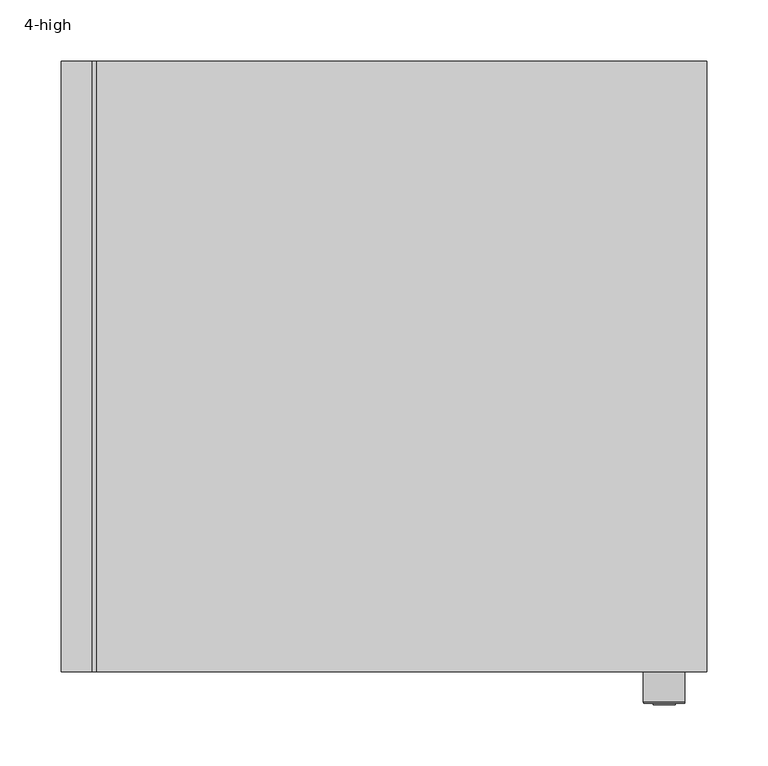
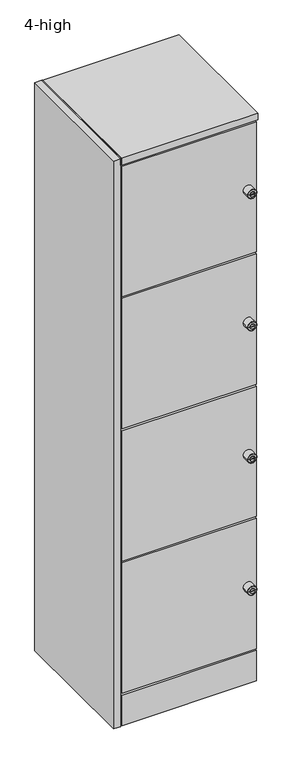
"""IFC4 building model written with IfcOpenShell, lengths in millimetres: furniture geometry, Furniture_Storage_Spacestor_SignatureHotLocker : 4-high."""

import ifcopenshell
import ifcopenshell.guid

model = None  # the IFC model being written
_history = None  # IfcOwnerHistory: only IFC2X3 demands one
_inside = {}  # id of a spatial element -> (the spatial element, [elements in it])
_under = {}  # id of a project, library or spatial element -> (it, [spatial elements below it])
_declared = {}  # id of a project -> (the project, [libraries it declares])
_typed = {}  # id of a type object -> (the type object, [elements of that type])
_made_of = {}  # id of a material, layer set ... -> (it, [elements and type objects made of it])


def new_model(schema):
    """Start an empty IFC model of exactly this schema.

    Asked for "IFC4X3", IfcOpenShell would pick the latest addendum, in which some entities
    have other attributes; the version numbers below select the first issue.
    IFC2X3 requires an IfcOwnerHistory on every rooted entity: one is made here for all.
    """
    global model, _history
    if schema == "IFC4X3":
        model = ifcopenshell.file(schema_version=(4, 3, 0, 0))
    else:
        model = ifcopenshell.file(schema=schema)
    _inside.clear()
    _under.clear()
    _declared.clear()
    _typed.clear()
    _made_of.clear()
    _history = None
    if model.schema == "IFC2X3":
        org = make("IfcOrganization", Name="unknown")
        user = make(
            "IfcPersonAndOrganization",
            ThePerson=make("IfcPerson", FamilyName="unknown"),
            TheOrganization=org,
        )
        app = make(
            "IfcApplication",
            ApplicationDeveloper=org,
            Version="unknown",
            ApplicationFullName="unknown",
            ApplicationIdentifier="unknown",
        )
        _history = make(
            "IfcOwnerHistory",
            OwningUser=user,
            OwningApplication=app,
            ChangeAction="ADDED",
            CreationDate=0,
        )
    return model


def make(cls, **values):
    """One entity of the class cls with the attributes given. An attribute that is None is left unset."""
    return model.create_entity(
        cls, **{name: value for name, value in values.items() if value is not None}
    )


def rooted(cls, **values):
    """An entity with a GlobalId (a new one), such as an element, a storey or a relation."""
    return make(cls, GlobalId=ifcopenshell.guid.new(), OwnerHistory=_history, **values)


def si_unit(unit_type, name, prefix=None):
    """IfcSIUnit, for example si_unit("LENGTHUNIT", "METRE", prefix="MILLI")."""
    return make("IfcSIUnit", UnitType=unit_type, Prefix=prefix, Name=name)


def assignment(units):
    """IfcUnitAssignment: the units of a project."""
    return None if units is None else make("IfcUnitAssignment", Units=units)


def point(xyz):
    """IfcCartesianPoint."""
    return None if xyz is None else make("IfcCartesianPoint", Coordinates=xyz)


def direction(xyz):
    """IfcDirection."""
    return None if xyz is None else make("IfcDirection", DirectionRatios=xyz)


def frame(location, z_axis=None, x_axis=None):
    """IfcAxis2Placement3D, a coordinate frame: its origin and axes. An axis left out is left unset."""
    return make(
        "IfcAxis2Placement3D",
        Location=point(location),
        Axis=direction(z_axis),
        RefDirection=direction(x_axis),
    )


def origin():
    """The frame at (0, 0, 0) with its axes left unset."""
    return frame((0.0, 0.0, 0.0))


def origin_with_axes():
    """The frame at (0, 0, 0) with the z axis (0, 0, 1) and the x axis (1, 0, 0) written out."""
    return frame((0.0, 0.0, 0.0), z_axis=(0.0, 0.0, 1.0), x_axis=(1.0, 0.0, 0.0))


def place(relative_to, where):
    """IfcLocalPlacement: puts the frame where relative to a parent placement (None: the world)."""
    return make(
        "IfcLocalPlacement", PlacementRelTo=relative_to, RelativePlacement=where
    )


def context(
    kind, dimensions, precision=None, world=None, true_north=None, identifier=None
):
    """IfcGeometricRepresentationContext, for example the 3D "Model" context."""
    return make(
        "IfcGeometricRepresentationContext",
        ContextIdentifier=identifier,
        ContextType=kind,
        CoordinateSpaceDimension=dimensions,
        Precision=precision,
        WorldCoordinateSystem=world,
        TrueNorth=true_north,
    )


def project(units=None, contexts=None):
    """IfcProject with its units and contexts."""
    return rooted(
        "IfcProject",
        Name="project",
        RepresentationContexts=contexts,
        UnitsInContext=assignment(units),
    )


def spatial(cls, under=None, at=None, **own):
    """A site, building, storey or space (cls), placed at a placement, below another one or the project."""
    s = rooted(cls, ObjectPlacement=at, **own)
    if under is not None:
        _under.setdefault(under.id(), (under, []))[1].append(s)
    return s


def polyline(points):
    """IfcPolyline through the points."""
    return make("IfcPolyline", Points=[point(p) for p in points])


def circle_curve(where, radius):
    """IfcCircle in the frame where."""
    return make("IfcCircle", Position=where, Radius=radius)


def ellipse_curve(where, semi_axis1, semi_axis2):
    """IfcEllipse in the frame where."""
    return make(
        "IfcEllipse", Position=where, SemiAxis1=semi_axis1, SemiAxis2=semi_axis2
    )


def trimmed(basis, trim1, trim2, sense, master):
    """IfcTrimmedCurve: the piece of a basis curve between two trims."""
    return make(
        "IfcTrimmedCurve",
        BasisCurve=basis,
        Trim1=trim1,
        Trim2=trim2,
        SenseAgreement=sense,
        MasterRepresentation=master,
    )


def outline(outer, holes=None, kind="AREA"):
    """IfcArbitraryClosedProfileDef: a profile drawn as a closed curve; with holes, ...WithVoids."""
    if holes is None:
        return make("IfcArbitraryClosedProfileDef", ProfileType=kind, OuterCurve=outer)
    return make(
        "IfcArbitraryProfileDefWithVoids",
        ProfileType=kind,
        OuterCurve=outer,
        InnerCurves=holes,
    )


def extrude(swept, where, along, depth):
    """IfcExtrudedAreaSolid: the profile swept, set in the frame where, extruded along a direction by depth."""
    return make(
        "IfcExtrudedAreaSolid",
        SweptArea=swept,
        Position=where,
        ExtrudedDirection=direction(along),
        Depth=depth,
    )


def shape(context_of_items, identifier, shape_type, items):
    """IfcShapeRepresentation: the items that make up one representation, for example the "Body"."""
    return make(
        "IfcShapeRepresentation",
        ContextOfItems=context_of_items,
        RepresentationIdentifier=identifier,
        RepresentationType=shape_type,
        Items=items,
    )


def source(mapping_origin, context_of_items, identifier, shape_type, items):
    """IfcRepresentationMap: a shape defined once, which mapped items show again and again."""
    return make(
        "IfcRepresentationMap",
        MappingOrigin=mapping_origin,
        MappedRepresentation=shape(context_of_items, identifier, shape_type, items),
    )


def transform(
    local_origin,
    x_axis=None,
    y_axis=None,
    z_axis=None,
    scale=None,
    scale2=None,
    scale3=None,
    uniform=True,
):
    """IfcCartesianTransformationOperator3D, or its non-uniform kind. x_axis, y_axis, z_axis: its Axis1, 2, 3."""
    if uniform:
        return make(
            "IfcCartesianTransformationOperator3D",
            Axis1=direction(x_axis),
            Axis2=direction(y_axis),
            LocalOrigin=point(local_origin),
            Scale=scale,
            Axis3=direction(z_axis),
        )
    return make(
        "IfcCartesianTransformationOperator3DnonUniform",
        Axis1=direction(x_axis),
        Axis2=direction(y_axis),
        LocalOrigin=point(local_origin),
        Scale=scale,
        Axis3=direction(z_axis),
        Scale2=scale2,
        Scale3=scale3,
    )


def mapped(mapping_source, mapping_target):
    """IfcMappedItem: shows the shape of a source again, moved by a transform."""
    return make(
        "IfcMappedItem", MappingSource=mapping_source, MappingTarget=mapping_target
    )


def made_of(thing, what):
    """Note that an element or type object is made of a material, layer set ...; save() writes the relation."""
    if what is not None:
        _made_of.setdefault(what.id(), (what, []))[1].append(thing)
    return thing


def element(
    cls,
    number,
    at=None,
    inside=None,
    cuts=None,
    type_object=None,
    material=None,
    context=None,
    identifier="Body",
    shape_type=None,
    held_by="IfcProductDefinitionShape",
    body=None,
    shapes=None,
    **own,
):
    """One element of the class cls, such as IfcWall. Its Tag is "e" and its number.

    at: its placement. inside: the storey or other place that contains it. cuts: it is an
    opening in that element (IfcRelVoidsElement). A single representation is given by context,
    identifier, shape_type and body (its items); several are given by shapes. held_by: the class
    of the entity that holds the representations. save() writes the other relations.
    """
    e = rooted(cls, Tag="e%d" % number, ObjectPlacement=at, **own)
    if body is not None:
        shapes = [shape(context, identifier, shape_type, body)]
    if shapes is not None:
        e.Representation = make(held_by, Representations=shapes)
    if inside is not None:
        _inside.setdefault(inside.id(), (inside, []))[1].append(e)
    if cuts is not None:
        rooted(
            "IfcRelVoidsElement", RelatingBuildingElement=cuts, RelatedOpeningElement=e
        )
    if type_object is not None:
        _typed.setdefault(type_object.id(), (type_object, []))[1].append(e)
    return made_of(e, material)


def aggregate(whole, parts):
    """IfcRelAggregates: a whole, such as a stair, and the parts it consists of."""
    return rooted("IfcRelAggregates", RelatingObject=whole, RelatedObjects=parts)


def save(model, path):
    """Write the relations noted so far, then the file.

    IfcRelAggregates (storeys below a building ...), IfcRelContainedInSpatialStructure (elements
    in a storey), IfcRelDefinesByType, IfcRelAssociatesMaterial and IfcRelDeclares: one each for
    every whole, place, type object, material and project.
    """
    for whole, parts in _under.values():
        aggregate(whole, parts)
    for where, things in _inside.values():
        rooted(
            "IfcRelContainedInSpatialStructure",
            RelatedElements=things,
            RelatingStructure=where,
        )
    for kind, things in _typed.values():
        rooted("IfcRelDefinesByType", RelatedObjects=things, RelatingType=kind)
    for what, things in _made_of.values():
        rooted("IfcRelAssociatesMaterial", RelatedObjects=things, RelatingMaterial=what)
    for by, libraries in _declared.values():
        rooted("IfcRelDeclares", RelatingContext=by, RelatedDefinitions=libraries)
    model.write(path)


def plane_surface(at):
    """IfcPlane: the flat surface through the origin of the frame at, square to its z axis."""
    return make("IfcPlane", Position=at)


def cylinder_surface(at, radius):
    """IfcCylindricalSurface: all points at the distance radius from the z axis of the frame at."""
    return make("IfcCylindricalSurface", Position=at, Radius=radius)


def revolved_surface(curve, axis_point, axis_direction):
    """IfcSurfaceOfRevolution: the curve turned about the line through axis_point along axis_direction."""
    return make(
        "IfcSurfaceOfRevolution",
        SweptCurve=make("IfcArbitraryOpenProfileDef", ProfileType="CURVE", Curve=curve),
        AxisPosition=make("IfcAxis1Placement", Location=point(axis_point), Axis=direction(axis_direction)),
    )


def advanced_brep(points, edges, surfaces, faces):
    """IfcAdvancedBrep: a solid bounded by faces that lie on surfaces and meet in shared edges.

    An edge is (start, end): straight between two places in points (the first is 0);
    or (start, end, curve); or (start, end, curve, False) where it runs against its curve.
    A face is (place in surfaces, loops), or (place, loops, False) where it looks against
    its surface's normal. A loop lists edges by number (the first is 1), with a minus sign
    where the edge is run from its end to its start. The first loop is the outer one.
    """
    corners = [point(p) for p in points]
    vertices = [make("IfcVertexPoint", VertexGeometry=c) for c in corners]
    made = []
    for start, end, *more in edges:
        made.append(
            make(
                "IfcEdgeCurve",
                EdgeStart=vertices[start],
                EdgeEnd=vertices[end],
                EdgeGeometry=more[0] if more else make("IfcPolyline", Points=[corners[start], corners[end]]),
                SameSense=more[1] if len(more) > 1 else True,
            )
        )
    hull = []
    for where, loops, *sense in faces:
        bounds = []
        for j, loop in enumerate(loops):
            ring = [make("IfcOrientedEdge", EdgeElement=made[abs(k) - 1], Orientation=k > 0) for k in loop]
            bounds.append(
                make(
                    "IfcFaceOuterBound" if j == 0 else "IfcFaceBound",
                    Bound=make("IfcEdgeLoop", EdgeList=ring),
                    Orientation=True,
                )
            )
        hull.append(make("IfcAdvancedFace", Bounds=bounds, FaceSurface=surfaces[where], SameSense=sense[0] if sense else True))
    return make("IfcAdvancedBrep", Outer=make("IfcClosedShell", CfsFaces=hull))


def furniture_4_high_4212a1f7(model_context):
    return source(origin(), model_context, "Body", "SolidModel", [
        extrude(outline(polyline([(489.0, 0.0), (11.0, 0.0), (11.0, 459.0), (489.0, 459.0), (489.0, 0.0)])), frame((0.0, 0.0, 2158.5), z_axis=(0.0, 0.0, 1.0), x_axis=(1.0, 0.0, 0.0)), (0.0, 0.0, 1.0), 22.0),
        extrude(outline(polyline([(489.0, 0.0), (11.0, 0.0), (11.0, 459.0), (489.0, 459.0), (489.0, 0.0)])), frame((0.0, 0.0, 1646.5), z_axis=(0.0, 0.0, 1.0), x_axis=(1.0, 0.0, 0.0)), (0.0, 0.0, 1.0), 22.0),
        extrude(outline(polyline([(489.0, 0.0), (11.0, 0.0), (11.0, 459.0), (489.0, 459.0), (489.0, 0.0)])), frame((0.0, 0.0, 1134.5), z_axis=(0.0, 0.0, 1.0), x_axis=(1.0, 0.0, 0.0)), (0.0, 0.0, 1.0), 22.0),
        extrude(outline(polyline([(489.0, 0.0), (11.0, 0.0), (11.0, 459.0), (489.0, 459.0), (489.0, 0.0)])), frame((0.0, 0.0, 622.5), z_axis=(0.0, 0.0, 1.0), x_axis=(1.0, 0.0, 0.0)), (0.0, 0.0, 1.0), 22.0),
        advanced_brep(
        [(448.0, -45.3116344, 1913.5), (482.0, -45.3116344, 1913.5), (482.0, -18.0, 1913.5), (448.0, -18.0, 1913.5), (465.0, -18.0, 1913.5), (456.0252681, -46.3150077, 1913.5), (473.9747319, -46.3150077, 1913.5), (480.9966266, -46.3150077, 1913.5), (449.0033734, -46.3150077, 1913.5), (456.0252681, -47.4703043, 1913.5), (473.9747319, -47.4703043, 1913.5), (460.1754848, -47.4703043, 1913.5), (460.1754848, -47.4703043, 1914.8633438), (469.8245152, -47.4703043, 1914.8633438), (469.8245152, -47.4703043, 1913.5), (469.8245152, -47.4703043, 1912.1366562), (460.1754848, -47.4703043, 1912.1366562), (469.8245152, -27.8604291, 1914.8633438), (460.1754848, -27.8604291, 1914.8633438), (460.1754848, -27.8604291, 1912.1366562), (469.8245152, -27.8604291, 1912.1366562)],
        [
            (0, 1, circle_curve(frame((465.0, -45.3116344, 1913.5), z_axis=(0.0, 1.0, 0.0), x_axis=(1.0, 0.0, 0.0)), 17.0)),
            (1, 2),
            (2, 3, circle_curve(frame((465.0, -18.0, 1913.5), z_axis=(0.0, -1.0, 0.0), x_axis=(1.0, 0.0, 0.0)), 17.0)),
            (3, 0),
            (1, 0, circle_curve(frame((465.0, -45.3116344, 1913.5), z_axis=(0.0, 1.0, 0.0), x_axis=(1.0, 0.0, 0.0)), 17.0)),
            (3, 2, circle_curve(frame((465.0, -18.0, 1913.5), z_axis=(0.0, -1.0, 0.0), x_axis=(1.0, 0.0, 0.0)), 17.0)),
            (2, 4),
            (4, 3),
            (5, 6, circle_curve(frame((465.0, -46.3150077, 1913.5), z_axis=(0.0, 1.0, 0.0), x_axis=(1.0, 0.0, 0.0)), 8.9747319)),
            (6, 7),
            (7, 8, circle_curve(frame((465.0, -46.3150077, 1913.5), z_axis=(0.0, -1.0, 0.0), x_axis=(1.0, 0.0, 0.0)), 15.9966266)),
            (8, 5),
            (6, 5, circle_curve(frame((465.0, -46.3150077, 1913.5), z_axis=(0.0, 1.0, 0.0), x_axis=(1.0, 0.0, 0.0)), 8.9747319)),
            (8, 7, circle_curve(frame((465.0, -46.3150077, 1913.5), z_axis=(0.0, -1.0, 0.0), x_axis=(1.0, 0.0, 0.0)), 15.9966266)),
            (0, 8, circle_curve(frame((449.0033734, -45.3116344, 1913.5), z_axis=(0.0, 0.0, 1.0), x_axis=(-1.0, 0.0, 0.0)), 1.0033734)),
            (7, 1, circle_curve(frame((480.9966266, -45.3116344, 1913.5), z_axis=(0.0, 0.0, 1.0), x_axis=(1.0, 0.0, 0.0)), 1.0033734)),
            (5, 9),
            (9, 10, circle_curve(frame((465.0, -47.4703043, 1913.5), z_axis=(0.0, 1.0, 0.0), x_axis=(1.0, 0.0, 0.0)), 8.9747319)),
            (10, 6),
            (10, 9, circle_curve(frame((465.0, -47.4703043, 1913.5), z_axis=(0.0, 1.0, 0.0), x_axis=(1.0, 0.0, 0.0)), 8.9747319)),
            (9, 11),
            (11, 12),
            (12, 13),
            (13, 14),
            (14, 10),
            (14, 15),
            (15, 16),
            (16, 11),
            (17, 18),
            (18, 19),
            (19, 20),
            (20, 17),
            (17, 13),
            (12, 18),
            (16, 19),
            (15, 20),
        ],
        [
            cylinder_surface(frame((465.0, -2627.0581012, 1913.5), z_axis=(0.0, -1.0, 0.0), x_axis=(1.0, 0.0, 0.0)), 17.0),
            plane_surface(frame((465.0, -18.0, 1913.5), z_axis=(0.0, 1.0, 0.0), x_axis=(1.0, 0.0, 0.0))),
            plane_surface(frame((465.0, -46.3150077, 1913.5), z_axis=(0.0, -1.0, 0.0), x_axis=(1.0, 0.0, 0.0))),
            revolved_surface(trimmed(ellipse_curve(frame((480.9966266, -45.3116344, 1913.5), z_axis=(0.0, 0.0, -1.0), x_axis=(1.0, 0.0, 0.0)), 1.0033734, 1.0033734), [point((482.0, -45.3116344, 1913.5))], [point((480.9966266, -46.3150077, 1913.5))], True, "CARTESIAN"), (465.0, -2627.0581012, 1913.5), (0.0, -1.0, 0.0)),
            cylinder_surface(frame((465.0, -2627.0581012, 1913.5), z_axis=(0.0, -1.0, 0.0), x_axis=(1.0, 0.0, 0.0)), 8.9747319),
            plane_surface(frame((465.0, -47.4703043, 1913.5), z_axis=(0.0, -1.0, 0.0), x_axis=(1.0, 0.0, 0.0))),
            plane_surface(frame((460.5434751, -27.8604291, 1914.8633438), z_axis=(0.0, -1.0, 0.0), x_axis=(1.0, 0.0, 0.0))),
            plane_surface(frame((469.8245152, -49.2046383, 1914.8633438), z_axis=(0.0, 0.0, -1.0), x_axis=(0.0, 1.0, 0.0))),
            plane_surface(frame((460.1754848, -49.2046383, 1914.8633438), z_axis=(1.0, 0.0, 0.0), x_axis=(0.0, 1.0, 0.0))),
            plane_surface(frame((460.1754848, -49.2046383, 1912.1366562), z_axis=(0.0, 0.0, 1.0), x_axis=(0.0, 1.0, 0.0))),
            plane_surface(frame((469.8245152, -49.2046383, 1912.1366562), z_axis=(-1.0, 0.0, 0.0), x_axis=(0.0, 1.0, 0.0))),
        ],
        [
            (0, [[1, 2, 3, 4]]),
            (0, [[-2, 5, -4, 6]]),
            (1, [[-3, 7, 8]]),
            (1, [[-6, -8, -7]]),
            (2, [[9, 10, 11, 12]]),
            (2, [[-10, 13, -12, 14]]),
            (3, [[-1, 15, -11, 16]]),
            (3, [[-5, -16, -14, -15]]),
            (4, [[-9, 17, 18, 19]]),
            (4, [[-13, -19, 20, -17]]),
            (5, [[-18, 21, 22, 23, 24, 25]]),
            (5, [[-20, -25, 26, 27, 28, -21]]),
            (6, [[29, 30, 31, 32]]),
            (7, [[-29, 33, -23, 34]]),
            (8, [[-30, -34, -22, -28, 35]]),
            (9, [[-31, -35, -27, 36]]),
            (10, [[-32, -36, -26, -24, -33]]),
        ],
    ),
        advanced_brep(
        [(448.0, -45.3116344, 1401.5), (482.0, -45.3116344, 1401.5), (482.0, -18.0, 1401.5), (448.0, -18.0, 1401.5), (465.0, -18.0, 1401.5), (456.0252681, -46.3150077, 1401.5), (473.9747319, -46.3150077, 1401.5), (480.9966266, -46.3150077, 1401.5), (449.0033734, -46.3150077, 1401.5), (456.0252681, -47.4703043, 1401.5), (473.9747319, -47.4703043, 1401.5), (460.1754848, -47.4703043, 1401.5), (460.1754848, -47.4703043, 1402.8633438), (469.8245152, -47.4703043, 1402.8633438), (469.8245152, -47.4703043, 1401.5), (469.8245152, -47.4703043, 1400.1366562), (460.1754848, -47.4703043, 1400.1366562), (469.8245152, -27.8604291, 1402.8633438), (460.1754848, -27.8604291, 1402.8633438), (460.1754848, -27.8604291, 1400.1366562), (469.8245152, -27.8604291, 1400.1366562)],
        [
            (0, 1, circle_curve(frame((465.0, -45.3116344, 1401.5), z_axis=(0.0, 1.0, 0.0), x_axis=(1.0, 0.0, 0.0)), 17.0)),
            (1, 2),
            (2, 3, circle_curve(frame((465.0, -18.0, 1401.5), z_axis=(0.0, -1.0, 0.0), x_axis=(1.0, 0.0, 0.0)), 17.0)),
            (3, 0),
            (1, 0, circle_curve(frame((465.0, -45.3116344, 1401.5), z_axis=(0.0, 1.0, 0.0), x_axis=(1.0, 0.0, 0.0)), 17.0)),
            (3, 2, circle_curve(frame((465.0, -18.0, 1401.5), z_axis=(0.0, -1.0, 0.0), x_axis=(1.0, 0.0, 0.0)), 17.0)),
            (2, 4),
            (4, 3),
            (5, 6, circle_curve(frame((465.0, -46.3150077, 1401.5), z_axis=(0.0, 1.0, 0.0), x_axis=(1.0, 0.0, 0.0)), 8.9747319)),
            (6, 7),
            (7, 8, circle_curve(frame((465.0, -46.3150077, 1401.5), z_axis=(0.0, -1.0, 0.0), x_axis=(1.0, 0.0, 0.0)), 15.9966266)),
            (8, 5),
            (6, 5, circle_curve(frame((465.0, -46.3150077, 1401.5), z_axis=(0.0, 1.0, 0.0), x_axis=(1.0, 0.0, 0.0)), 8.9747319)),
            (8, 7, circle_curve(frame((465.0, -46.3150077, 1401.5), z_axis=(0.0, -1.0, 0.0), x_axis=(1.0, 0.0, 0.0)), 15.9966266)),
            (0, 8, circle_curve(frame((449.0033734, -45.3116344, 1401.5), z_axis=(0.0, 0.0, 1.0), x_axis=(-1.0, 0.0, 0.0)), 1.0033734)),
            (7, 1, circle_curve(frame((480.9966266, -45.3116344, 1401.5), z_axis=(0.0, 0.0, 1.0), x_axis=(1.0, 0.0, 0.0)), 1.0033734)),
            (5, 9),
            (9, 10, circle_curve(frame((465.0, -47.4703043, 1401.5), z_axis=(0.0, 1.0, 0.0), x_axis=(1.0, 0.0, 0.0)), 8.9747319)),
            (10, 6),
            (10, 9, circle_curve(frame((465.0, -47.4703043, 1401.5), z_axis=(0.0, 1.0, 0.0), x_axis=(1.0, 0.0, 0.0)), 8.9747319)),
            (9, 11),
            (11, 12),
            (12, 13),
            (13, 14),
            (14, 10),
            (14, 15),
            (15, 16),
            (16, 11),
            (17, 18),
            (18, 19),
            (19, 20),
            (20, 17),
            (17, 13),
            (12, 18),
            (16, 19),
            (15, 20),
        ],
        [
            cylinder_surface(frame((465.0, -2627.0581012, 1401.5), z_axis=(0.0, -1.0, 0.0), x_axis=(1.0, 0.0, 0.0)), 17.0),
            plane_surface(frame((465.0, -18.0, 1401.5), z_axis=(0.0, 1.0, 0.0), x_axis=(1.0, 0.0, 0.0))),
            plane_surface(frame((465.0, -46.3150077, 1401.5), z_axis=(0.0, -1.0, 0.0), x_axis=(1.0, 0.0, 0.0))),
            revolved_surface(trimmed(ellipse_curve(frame((480.9966266, -45.3116344, 1401.5), z_axis=(0.0, 0.0, -1.0), x_axis=(1.0, 0.0, 0.0)), 1.0033734, 1.0033734), [point((482.0, -45.3116344, 1401.5))], [point((480.9966266, -46.3150077, 1401.5))], True, "CARTESIAN"), (465.0, -2627.0581012, 1401.5), (0.0, -1.0, 0.0)),
            cylinder_surface(frame((465.0, -2627.0581012, 1401.5), z_axis=(0.0, -1.0, 0.0), x_axis=(1.0, 0.0, 0.0)), 8.9747319),
            plane_surface(frame((465.0, -47.4703043, 1401.5), z_axis=(0.0, -1.0, 0.0), x_axis=(1.0, 0.0, 0.0))),
            plane_surface(frame((460.5434751, -27.8604291, 1402.8633438), z_axis=(0.0, -1.0, 0.0), x_axis=(1.0, 0.0, 0.0))),
            plane_surface(frame((469.8245152, -49.2046383, 1402.8633438), z_axis=(0.0, 0.0, -1.0), x_axis=(0.0, 1.0, 0.0))),
            plane_surface(frame((460.1754848, -49.2046383, 1402.8633438), z_axis=(1.0, 0.0, 0.0), x_axis=(0.0, 1.0, 0.0))),
            plane_surface(frame((460.1754848, -49.2046383, 1400.1366562), z_axis=(0.0, 0.0, 1.0), x_axis=(0.0, 1.0, 0.0))),
            plane_surface(frame((469.8245152, -49.2046383, 1400.1366562), z_axis=(-1.0, 0.0, 0.0), x_axis=(0.0, 1.0, 0.0))),
        ],
        [
            (0, [[1, 2, 3, 4]]),
            (0, [[-2, 5, -4, 6]]),
            (1, [[-3, 7, 8]]),
            (1, [[-6, -8, -7]]),
            (2, [[9, 10, 11, 12]]),
            (2, [[-10, 13, -12, 14]]),
            (3, [[-1, 15, -11, 16]]),
            (3, [[-5, -16, -14, -15]]),
            (4, [[-9, 17, 18, 19]]),
            (4, [[-13, -19, 20, -17]]),
            (5, [[-18, 21, 22, 23, 24, 25]]),
            (5, [[-20, -25, 26, 27, 28, -21]]),
            (6, [[29, 30, 31, 32]]),
            (7, [[-29, 33, -23, 34]]),
            (8, [[-30, -34, -22, -28, 35]]),
            (9, [[-31, -35, -27, 36]]),
            (10, [[-32, -36, -26, -24, -33]]),
        ],
    ),
        advanced_brep(
        [(448.0, -45.3116344, 889.5), (482.0, -45.3116344, 889.5), (482.0, -18.0, 889.5), (448.0, -18.0, 889.5), (465.0, -18.0, 889.5), (456.0252681, -46.3150077, 889.5), (473.9747319, -46.3150077, 889.5), (480.9966266, -46.3150077, 889.5), (449.0033734, -46.3150077, 889.5), (456.0252681, -47.4703043, 889.5), (473.9747319, -47.4703043, 889.5), (460.1754848, -47.4703043, 889.5), (460.1754848, -47.4703043, 890.8633438), (469.8245152, -47.4703043, 890.8633438), (469.8245152, -47.4703043, 889.5), (469.8245152, -47.4703043, 888.1366562), (460.1754848, -47.4703043, 888.1366562), (469.8245152, -27.8604291, 890.8633438), (460.1754848, -27.8604291, 890.8633438), (460.1754848, -27.8604291, 888.1366562), (469.8245152, -27.8604291, 888.1366562)],
        [
            (0, 1, circle_curve(frame((465.0, -45.3116344, 889.5), z_axis=(0.0, 1.0, 0.0), x_axis=(1.0, 0.0, 0.0)), 17.0)),
            (1, 2),
            (2, 3, circle_curve(frame((465.0, -18.0, 889.5), z_axis=(0.0, -1.0, 0.0), x_axis=(1.0, 0.0, 0.0)), 17.0)),
            (3, 0),
            (1, 0, circle_curve(frame((465.0, -45.3116344, 889.5), z_axis=(0.0, 1.0, 0.0), x_axis=(1.0, 0.0, 0.0)), 17.0)),
            (3, 2, circle_curve(frame((465.0, -18.0, 889.5), z_axis=(0.0, -1.0, 0.0), x_axis=(1.0, 0.0, 0.0)), 17.0)),
            (2, 4),
            (4, 3),
            (5, 6, circle_curve(frame((465.0, -46.3150077, 889.5), z_axis=(0.0, 1.0, 0.0), x_axis=(1.0, 0.0, 0.0)), 8.9747319)),
            (6, 7),
            (7, 8, circle_curve(frame((465.0, -46.3150077, 889.5), z_axis=(0.0, -1.0, 0.0), x_axis=(1.0, 0.0, 0.0)), 15.9966266)),
            (8, 5),
            (6, 5, circle_curve(frame((465.0, -46.3150077, 889.5), z_axis=(0.0, 1.0, 0.0), x_axis=(1.0, 0.0, 0.0)), 8.9747319)),
            (8, 7, circle_curve(frame((465.0, -46.3150077, 889.5), z_axis=(0.0, -1.0, 0.0), x_axis=(1.0, 0.0, 0.0)), 15.9966266)),
            (0, 8, circle_curve(frame((449.0033734, -45.3116344, 889.5), z_axis=(0.0, 0.0, 1.0), x_axis=(-1.0, 0.0, 0.0)), 1.0033734)),
            (7, 1, circle_curve(frame((480.9966266, -45.3116344, 889.5), z_axis=(0.0, 0.0, 1.0), x_axis=(1.0, 0.0, 0.0)), 1.0033734)),
            (5, 9),
            (9, 10, circle_curve(frame((465.0, -47.4703043, 889.5), z_axis=(0.0, 1.0, 0.0), x_axis=(1.0, 0.0, 0.0)), 8.9747319)),
            (10, 6),
            (10, 9, circle_curve(frame((465.0, -47.4703043, 889.5), z_axis=(0.0, 1.0, 0.0), x_axis=(1.0, 0.0, 0.0)), 8.9747319)),
            (9, 11),
            (11, 12),
            (12, 13),
            (13, 14),
            (14, 10),
            (14, 15),
            (15, 16),
            (16, 11),
            (17, 18),
            (18, 19),
            (19, 20),
            (20, 17),
            (17, 13),
            (12, 18),
            (16, 19),
            (15, 20),
        ],
        [
            cylinder_surface(frame((465.0, -2627.0581012, 889.5), z_axis=(0.0, -1.0, 0.0), x_axis=(1.0, 0.0, 0.0)), 17.0),
            plane_surface(frame((465.0, -18.0, 889.5), z_axis=(0.0, 1.0, 0.0), x_axis=(1.0, 0.0, 0.0))),
            plane_surface(frame((465.0, -46.3150077, 889.5), z_axis=(0.0, -1.0, 0.0), x_axis=(1.0, 0.0, 0.0))),
            revolved_surface(trimmed(ellipse_curve(frame((480.9966266, -45.3116344, 889.5), z_axis=(0.0, 0.0, -1.0), x_axis=(1.0, 0.0, 0.0)), 1.0033734, 1.0033734), [point((482.0, -45.3116344, 889.5))], [point((480.9966266, -46.3150077, 889.5))], True, "CARTESIAN"), (465.0, -2627.0581012, 889.5), (0.0, -1.0, 0.0)),
            cylinder_surface(frame((465.0, -2627.0581012, 889.5), z_axis=(0.0, -1.0, 0.0), x_axis=(1.0, 0.0, 0.0)), 8.9747319),
            plane_surface(frame((465.0, -47.4703043, 889.5), z_axis=(0.0, -1.0, 0.0), x_axis=(1.0, 0.0, 0.0))),
            plane_surface(frame((460.5434751, -27.8604291, 890.8633438), z_axis=(0.0, -1.0, 0.0), x_axis=(1.0, 0.0, 0.0))),
            plane_surface(frame((469.8245152, -49.2046383, 890.8633438), z_axis=(0.0, 0.0, -1.0), x_axis=(0.0, 1.0, 0.0))),
            plane_surface(frame((460.1754848, -49.2046383, 890.8633438), z_axis=(1.0, 0.0, 0.0), x_axis=(0.0, 1.0, 0.0))),
            plane_surface(frame((460.1754848, -49.2046383, 888.1366562), z_axis=(0.0, 0.0, 1.0), x_axis=(0.0, 1.0, 0.0))),
            plane_surface(frame((469.8245152, -49.2046383, 888.1366562), z_axis=(-1.0, 0.0, 0.0), x_axis=(0.0, 1.0, 0.0))),
        ],
        [
            (0, [[1, 2, 3, 4]]),
            (0, [[-2, 5, -4, 6]]),
            (1, [[-3, 7, 8]]),
            (1, [[-6, -8, -7]]),
            (2, [[9, 10, 11, 12]]),
            (2, [[-10, 13, -12, 14]]),
            (3, [[-1, 15, -11, 16]]),
            (3, [[-5, -16, -14, -15]]),
            (4, [[-9, 17, 18, 19]]),
            (4, [[-13, -19, 20, -17]]),
            (5, [[-18, 21, 22, 23, 24, 25]]),
            (5, [[-20, -25, 26, 27, 28, -21]]),
            (6, [[29, 30, 31, 32]]),
            (7, [[-29, 33, -23, 34]]),
            (8, [[-30, -34, -22, -28, 35]]),
            (9, [[-31, -35, -27, 36]]),
            (10, [[-32, -36, -26, -24, -33]]),
        ],
    ),
        advanced_brep(
        [(448.0, -45.3116344, 377.5), (482.0, -45.3116344, 377.5), (482.0, -18.0, 377.5), (448.0, -18.0, 377.5), (465.0, -18.0, 377.5), (456.0252681, -46.3150077, 377.5), (473.9747319, -46.3150077, 377.5), (480.9966266, -46.3150077, 377.5), (449.0033734, -46.3150077, 377.5), (456.0252681, -47.4703043, 377.5), (473.9747319, -47.4703043, 377.5), (460.1754848, -47.4703043, 377.5), (460.1754848, -47.4703043, 378.8633438), (469.8245152, -47.4703043, 378.8633438), (469.8245152, -47.4703043, 377.5), (469.8245152, -47.4703043, 376.1366562), (460.1754848, -47.4703043, 376.1366562), (469.8245152, -27.8604291, 378.8633438), (460.1754848, -27.8604291, 378.8633438), (460.1754848, -27.8604291, 376.1366562), (469.8245152, -27.8604291, 376.1366562)],
        [
            (0, 1, circle_curve(frame((465.0, -45.3116344, 377.5), z_axis=(0.0, 1.0, 0.0), x_axis=(1.0, 0.0, 0.0)), 17.0)),
            (1, 2),
            (2, 3, circle_curve(frame((465.0, -18.0, 377.5), z_axis=(0.0, -1.0, 0.0), x_axis=(1.0, 0.0, 0.0)), 17.0)),
            (3, 0),
            (1, 0, circle_curve(frame((465.0, -45.3116344, 377.5), z_axis=(0.0, 1.0, 0.0), x_axis=(1.0, 0.0, 0.0)), 17.0)),
            (3, 2, circle_curve(frame((465.0, -18.0, 377.5), z_axis=(0.0, -1.0, 0.0), x_axis=(1.0, 0.0, 0.0)), 17.0)),
            (2, 4),
            (4, 3),
            (5, 6, circle_curve(frame((465.0, -46.3150077, 377.5), z_axis=(0.0, 1.0, 0.0), x_axis=(1.0, 0.0, 0.0)), 8.9747319)),
            (6, 7),
            (7, 8, circle_curve(frame((465.0, -46.3150077, 377.5), z_axis=(0.0, -1.0, 0.0), x_axis=(1.0, 0.0, 0.0)), 15.9966266)),
            (8, 5),
            (6, 5, circle_curve(frame((465.0, -46.3150077, 377.5), z_axis=(0.0, 1.0, 0.0), x_axis=(1.0, 0.0, 0.0)), 8.9747319)),
            (8, 7, circle_curve(frame((465.0, -46.3150077, 377.5), z_axis=(0.0, -1.0, 0.0), x_axis=(1.0, 0.0, 0.0)), 15.9966266)),
            (0, 8, circle_curve(frame((449.0033734, -45.3116344, 377.5), z_axis=(0.0, 0.0, 1.0), x_axis=(-1.0, 0.0, 0.0)), 1.0033734)),
            (7, 1, circle_curve(frame((480.9966266, -45.3116344, 377.5), z_axis=(0.0, 0.0, 1.0), x_axis=(1.0, 0.0, 0.0)), 1.0033734)),
            (5, 9),
            (9, 10, circle_curve(frame((465.0, -47.4703043, 377.5), z_axis=(0.0, 1.0, 0.0), x_axis=(1.0, 0.0, 0.0)), 8.9747319)),
            (10, 6),
            (10, 9, circle_curve(frame((465.0, -47.4703043, 377.5), z_axis=(0.0, 1.0, 0.0), x_axis=(1.0, 0.0, 0.0)), 8.9747319)),
            (9, 11),
            (11, 12),
            (12, 13),
            (13, 14),
            (14, 10),
            (14, 15),
            (15, 16),
            (16, 11),
            (17, 18),
            (18, 19),
            (19, 20),
            (20, 17),
            (17, 13),
            (12, 18),
            (16, 19),
            (15, 20),
        ],
        [
            cylinder_surface(frame((465.0, -2627.0581012, 377.5), z_axis=(0.0, -1.0, 0.0), x_axis=(1.0, 0.0, 0.0)), 17.0),
            plane_surface(frame((465.0, -18.0, 377.5), z_axis=(0.0, 1.0, 0.0), x_axis=(1.0, 0.0, 0.0))),
            plane_surface(frame((465.0, -46.3150077, 377.5), z_axis=(0.0, -1.0, 0.0), x_axis=(1.0, 0.0, 0.0))),
            revolved_surface(trimmed(ellipse_curve(frame((480.9966266, -45.3116344, 377.5), z_axis=(0.0, 0.0, -1.0), x_axis=(1.0, 0.0, 0.0)), 1.0033734, 1.0033734), [point((482.0, -45.3116344, 377.5))], [point((480.9966266, -46.3150077, 377.5))], True, "CARTESIAN"), (465.0, -2627.0581012, 377.5), (0.0, -1.0, 0.0)),
            cylinder_surface(frame((465.0, -2627.0581012, 377.5), z_axis=(0.0, -1.0, 0.0), x_axis=(1.0, 0.0, 0.0)), 8.9747319),
            plane_surface(frame((465.0, -47.4703043, 377.5), z_axis=(0.0, -1.0, 0.0), x_axis=(1.0, 0.0, 0.0))),
            plane_surface(frame((460.5434751, -27.8604291, 378.8633438), z_axis=(0.0, -1.0, 0.0), x_axis=(1.0, 0.0, 0.0))),
            plane_surface(frame((469.8245152, -49.2046383, 378.8633438), z_axis=(0.0, 0.0, -1.0), x_axis=(0.0, 1.0, 0.0))),
            plane_surface(frame((460.1754848, -49.2046383, 378.8633438), z_axis=(1.0, 0.0, 0.0), x_axis=(0.0, 1.0, 0.0))),
            plane_surface(frame((460.1754848, -49.2046383, 376.1366562), z_axis=(0.0, 0.0, 1.0), x_axis=(0.0, 1.0, 0.0))),
            plane_surface(frame((469.8245152, -49.2046383, 376.1366562), z_axis=(-1.0, 0.0, 0.0), x_axis=(0.0, 1.0, 0.0))),
        ],
        [
            (0, [[1, 2, 3, 4]]),
            (0, [[-2, 5, -4, 6]]),
            (1, [[-3, 7, 8]]),
            (1, [[-6, -8, -7]]),
            (2, [[9, 10, 11, 12]]),
            (2, [[-10, 13, -12, 14]]),
            (3, [[-1, 15, -11, 16]]),
            (3, [[-5, -16, -14, -15]]),
            (4, [[-9, 17, 18, 19]]),
            (4, [[-13, -19, 20, -17]]),
            (5, [[-18, 21, 22, 23, 24, 25]]),
            (5, [[-20, -25, 26, 27, 28, -21]]),
            (6, [[29, 30, 31, 32]]),
            (7, [[-29, 33, -23, 34]]),
            (8, [[-30, -34, -22, -28, 35]]),
            (9, [[-31, -35, -27, 36]]),
            (10, [[-32, -36, -26, -24, -33]]),
        ],
    ),
        extrude(outline(polyline([(496.5, -18.0), (3.5, -18.0), (3.5, 0.0), (496.5, 0.0), (496.5, -18.0)])), frame((0.0, 0.0, 1661.0), z_axis=(0.0, 0.0, 1.0), x_axis=(1.0, 0.0, 0.0)), (0.0, 0.0, 1.0), 505.0),
        extrude(outline(polyline([(496.5, -18.0), (3.5, -18.0), (3.5, 0.0), (496.5, 0.0), (496.5, -18.0)])), frame((0.0, 0.0, 1149.0), z_axis=(0.0, 0.0, 1.0), x_axis=(1.0, 0.0, 0.0)), (0.0, 0.0, 1.0), 505.0),
        extrude(outline(polyline([(496.5, -18.0), (3.5, -18.0), (3.5, 0.0), (496.5, 0.0), (496.5, -18.0)])), frame((0.0, 0.0, 637.0), z_axis=(0.0, 0.0, 1.0), x_axis=(1.0, 0.0, 0.0)), (0.0, 0.0, 1.0), 505.0),
        extrude(outline(polyline([(496.5, -18.0), (3.5, -18.0), (3.5, 0.0), (496.5, 0.0), (496.5, -18.0)])), frame((0.0, 0.0, 125.0), z_axis=(0.0, 0.0, 1.0), x_axis=(1.0, 0.0, 0.0)), (0.0, 0.0, 1.0), 505.0),
        extrude(outline(polyline([(489.0, 0.0), (11.0, 0.0), (11.0, 459.0), (489.0, 459.0), (489.0, 0.0)])), frame((0.0, 0.0, 110.5), z_axis=(0.0, 0.0, 1.0), x_axis=(1.0, 0.0, 0.0)), (0.0, 0.0, 1.0), 22.0),
        extrude(outline(polyline([(0.0, -20.5), (-3.5, -20.5), (-3.5, 479.5), (0.0, 479.5), (0.0, -20.5)])), frame((0.0, 0.0, 2173.0), z_axis=(0.0, 0.0, 1.0), x_axis=(1.0, 0.0, 0.0)), (0.0, 0.0, 1.0), 25.5),
        extrude(outline(polyline([(496.5, 459.0), (3.5, 459.0), (3.5, 477.0), (496.5, 477.0), (496.5, 459.0)])), origin_with_axes(), (0.0, 0.0, 1.0), 2166.0),
        extrude(outline(polyline([(496.5, -18.0), (3.5, -18.0), (3.5, 0.0), (496.5, 0.0), (496.5, -18.0)])), origin_with_axes(), (0.0, 0.0, 1.0), 118.0),
        extrude(outline(polyline([(500.0, -20.5), (0.0, -20.5), (0.0, 479.5), (500.0, 479.5), (500.0, -20.5)])), frame((0.0, 0.0, 2173.0), z_axis=(0.0, 0.0, 1.0), x_axis=(1.0, 0.0, 0.0)), (0.0, 0.0, 1.0), 25.5),
        extrude(outline(polyline([(-29.0, 479.5), (-3.5, 479.5), (-3.5, -20.5), (-29.0, -20.5), (-29.0, 479.5)])), origin_with_axes(), (0.0, 0.0, 1.0), 2198.5),
        extrude(outline(polyline([(0.0, 0.0), (-11.0, 0.0), (-11.0, 459.0), (0.0, 459.0), (0.0, 0.0)])), origin_with_axes(), (0.0, 0.0, 1.0), 2180.5),
        extrude(outline(polyline([(500.0, 0.0), (489.0, 0.0), (489.0, 459.0), (500.0, 459.0), (500.0, 0.0)])), origin_with_axes(), (0.0, 0.0, 1.0), 2180.5),
        extrude(outline(polyline([(11.0, 0.0), (0.0, 0.0), (0.0, 459.0), (11.0, 459.0), (11.0, 0.0)])), origin_with_axes(), (0.0, 0.0, 1.0), 2180.5),
    ])


if __name__ == "__main__":
    model = new_model("IFC4")
    model_context = context("Model", 3, world=origin())
    ifc_project = project(units=[si_unit("LENGTHUNIT", "METRE", prefix="MILLI")], contexts=[model_context])
    site = spatial("IfcSite", under=ifc_project)
    building = spatial("IfcBuilding", under=site)
    placement = place(None, origin())
    furniture_4_high_shape = furniture_4_high_4212a1f7(model_context)
    element("IfcFurniture", 1, ObjectType="Furniture_Storage_Spacestor_SignatureHotLocker : 4-high", at=placement, inside=building, context=model_context, shape_type="MappedRepresentation", body=[
        mapped(furniture_4_high_shape, transform((0.0, 0.0, 0.0), x_axis=(1.0, 0.0, 0.0), y_axis=(0.0, 1.0, 0.0), z_axis=(0.0, 0.0, 1.0))),
    ])
    save(model, "model.ifc")
